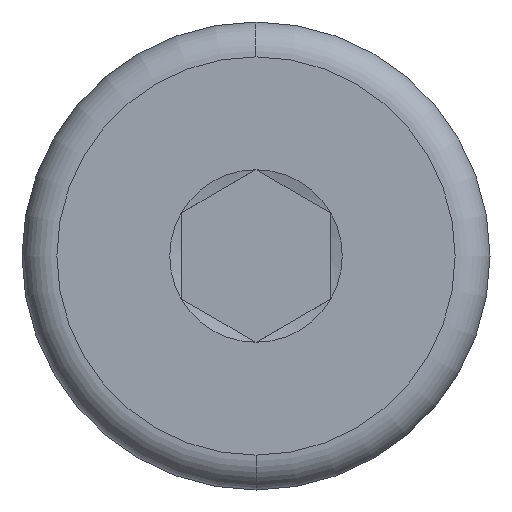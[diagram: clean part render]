
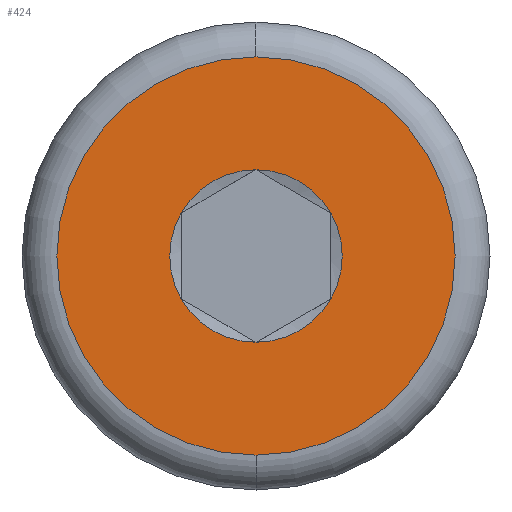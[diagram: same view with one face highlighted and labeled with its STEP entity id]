
A CAD part, left-side view. The second image highlights one B-rep face of the part: STEP entity #424.
In plain terms, the highlighted planar face has unit normal (-1, 0, 0).
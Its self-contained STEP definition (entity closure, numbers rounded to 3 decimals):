
#3 = CIRCLE ( 'NONE', #531, 4. ) ;
#11 = ORIENTED_EDGE ( 'NONE', *, *, #235, .T. ) ;
#21 = EDGE_CURVE ( 'NONE', #307, #335, #64, .T. ) ;
#25 = DIRECTION ( 'NONE',  ( 0., 0., -1. ) ) ;
#31 = CARTESIAN_POINT ( 'NONE',  ( 0., 0., 0. ) ) ;
#34 = CARTESIAN_POINT ( 'NONE',  ( 0., 0., 0. ) ) ;
#48 = DIRECTION ( 'NONE',  ( 1., 0., 0. ) ) ;
#51 = EDGE_CURVE ( 'NONE', #335, #183, #669, .T. ) ;
#53 = DIRECTION ( 'NONE',  ( 0., 0., -1. ) ) ;
#64 = CIRCLE ( 'NONE', #420, 1.732 ) ;
#69 = EDGE_CURVE ( 'NONE', #676, #445, #98, .T. ) ;
#90 = ORIENTED_EDGE ( 'NONE', *, *, #551, .T. ) ;
#98 = CIRCLE ( 'NONE', #121, 1.732 ) ;
#103 = FACE_OUTER_BOUND ( 'NONE', #360, .T. ) ;
#105 = CARTESIAN_POINT ( 'NONE',  ( 0., 0., -4. ) ) ;
#121 = AXIS2_PLACEMENT_3D ( 'NONE', #526, #483, #53 ) ;
#158 = AXIS2_PLACEMENT_3D ( 'NONE', #379, #431, #371 ) ;
#163 = CARTESIAN_POINT ( 'NONE',  ( 0., 0., 0. ) ) ;
#165 = DIRECTION ( 'NONE',  ( 1., 0., 0. ) ) ;
#170 = AXIS2_PLACEMENT_3D ( 'NONE', #188, #494, #293 ) ;
#183 = VERTEX_POINT ( 'NONE', #396 ) ;
#188 = CARTESIAN_POINT ( 'NONE',  ( 0., 0., 0. ) ) ;
#190 = AXIS2_PLACEMENT_3D ( 'NONE', #205, #48, #262 ) ;
#195 = EDGE_CURVE ( 'NONE', #222, #570, #3, .T. ) ;
#196 = CARTESIAN_POINT ( 'NONE',  ( 0., 1.5, 0.866 ) ) ;
#205 = CARTESIAN_POINT ( 'NONE',  ( 0., 0., 0. ) ) ;
#222 = VERTEX_POINT ( 'NONE', #280 ) ;
#235 = EDGE_CURVE ( 'NONE', #445, #307, #670, .T. ) ;
#242 = DIRECTION ( 'NONE',  ( 1., 0., 0. ) ) ;
#246 = EDGE_CURVE ( 'NONE', #356, #676, #352, .T. ) ;
#257 = CIRCLE ( 'NONE', #190, 4. ) ;
#261 = ORIENTED_EDGE ( 'NONE', *, *, #21, .T. ) ;
#262 = DIRECTION ( 'NONE',  ( 0., 0., -1. ) ) ;
#272 = CARTESIAN_POINT ( 'NONE',  ( 0., 0., -1.732 ) ) ;
#280 = CARTESIAN_POINT ( 'NONE',  ( 0., 0., 4. ) ) ;
#285 = CARTESIAN_POINT ( 'NONE',  ( 0., 0., 0. ) ) ;
#290 = CARTESIAN_POINT ( 'NONE',  ( 0., 1.5, -0.866 ) ) ;
#293 = DIRECTION ( 'NONE',  ( 0., 0., -1. ) ) ;
#302 = DIRECTION ( 'NONE',  ( -1., 0., 0. ) ) ;
#307 = VERTEX_POINT ( 'NONE', #290 ) ;
#320 = DIRECTION ( 'NONE',  ( 0., 0., -1. ) ) ;
#335 = VERTEX_POINT ( 'NONE', #196 ) ;
#346 = ORIENTED_EDGE ( 'NONE', *, *, #365, .F. ) ;
#352 = CIRCLE ( 'NONE', #170, 1.732 ) ;
#356 = VERTEX_POINT ( 'NONE', #513 ) ;
#360 = EDGE_LOOP ( 'NONE', ( #346, #408 ) ) ;
#364 = CIRCLE ( 'NONE', #158, 1.732 ) ;
#365 = EDGE_CURVE ( 'NONE', #570, #222, #257, .T. ) ;
#371 = DIRECTION ( 'NONE',  ( 0., 0., -1. ) ) ;
#373 = AXIS2_PLACEMENT_3D ( 'NONE', #629, #165, #320 ) ;
#379 = CARTESIAN_POINT ( 'NONE',  ( 0., 0., 0. ) ) ;
#380 = DIRECTION ( 'NONE',  ( 1., 0., 0. ) ) ;
#396 = CARTESIAN_POINT ( 'NONE',  ( 0., 0., 1.732 ) ) ;
#408 = ORIENTED_EDGE ( 'NONE', *, *, #195, .F. ) ;
#416 = ORIENTED_EDGE ( 'NONE', *, *, #69, .T. ) ;
#420 = AXIS2_PLACEMENT_3D ( 'NONE', #163, #380, #520 ) ;
#424 = ADVANCED_FACE ( 'NONE', ( #559, #103 ), #501, .T. ) ;
#431 = DIRECTION ( 'NONE',  ( 1., 0., 0. ) ) ;
#445 = VERTEX_POINT ( 'NONE', #272 ) ;
#483 = DIRECTION ( 'NONE',  ( 1., 0., 0. ) ) ;
#490 = CARTESIAN_POINT ( 'NONE',  ( 0., -1.5, -0.866 ) ) ;
#494 = DIRECTION ( 'NONE',  ( 1., 0., 0. ) ) ;
#500 = AXIS2_PLACEMENT_3D ( 'NONE', #34, #302, #565 ) ;
#501 = PLANE ( 'NONE',  #500 ) ;
#502 = ORIENTED_EDGE ( 'NONE', *, *, #246, .T. ) ;
#513 = CARTESIAN_POINT ( 'NONE',  ( 0., -1.5, 0.866 ) ) ;
#520 = DIRECTION ( 'NONE',  ( 0., 0., -1. ) ) ;
#526 = CARTESIAN_POINT ( 'NONE',  ( 0., 0., 0. ) ) ;
#531 = AXIS2_PLACEMENT_3D ( 'NONE', #31, #242, #25 ) ;
#549 = EDGE_LOOP ( 'NONE', ( #613, #90, #502, #416, #11, #261 ) ) ;
#551 = EDGE_CURVE ( 'NONE', #183, #356, #364, .T. ) ;
#559 = FACE_BOUND ( 'NONE', #549, .T. ) ;
#565 = DIRECTION ( 'NONE',  ( 0., 0., 1. ) ) ;
#570 = VERTEX_POINT ( 'NONE', #105 ) ;
#590 = DIRECTION ( 'NONE',  ( 0., 0., -1. ) ) ;
#595 = DIRECTION ( 'NONE',  ( 1., 0., 0. ) ) ;
#613 = ORIENTED_EDGE ( 'NONE', *, *, #51, .T. ) ;
#629 = CARTESIAN_POINT ( 'NONE',  ( 0., 0., 0. ) ) ;
#641 = AXIS2_PLACEMENT_3D ( 'NONE', #285, #595, #590 ) ;
#669 = CIRCLE ( 'NONE', #373, 1.732 ) ;
#670 = CIRCLE ( 'NONE', #641, 1.732 ) ;
#676 = VERTEX_POINT ( 'NONE', #490 ) ;
